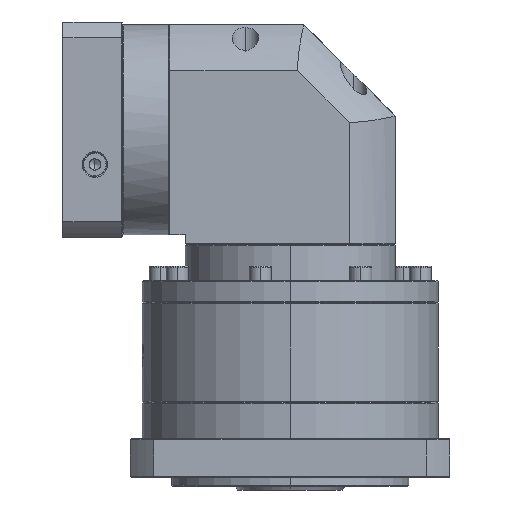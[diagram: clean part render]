
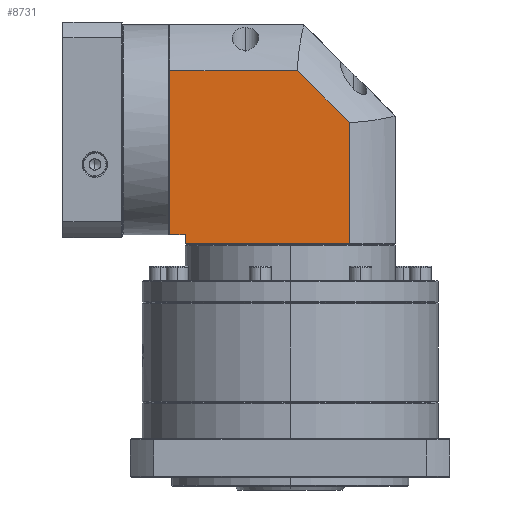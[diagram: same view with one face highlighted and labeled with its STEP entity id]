
A CAD part, left-side view. The second image highlights one B-rep face of the part: STEP entity #8731.
In plain terms, the highlighted planar face has unit normal (-1, 0, 0).
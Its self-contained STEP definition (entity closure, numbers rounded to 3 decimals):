
#3756 = CARTESIAN_POINT ( 'NONE',  ( -216.237, 89.686, 71.129 ) ) ;
#5269 = DIRECTION ( 'NONE',  ( 0., 0., -1. ) ) ;
#5440 = CARTESIAN_POINT ( 'NONE',  ( -216.237, 151.247, -23.771 ) ) ;
#5689 = VECTOR ( 'NONE', #55005, 1000. ) ;
#7602 = VECTOR ( 'NONE', #88922, 1000. ) ;
#8731 = ADVANCED_FACE ( 'NONE', ( #39428 ), #64504, .F. ) ;
#11137 = ORIENTED_EDGE ( 'NONE', *, *, #19884, .F. ) ;
#11434 = LINE ( 'NONE', #93030, #95712 ) ;
#19884 = EDGE_CURVE ( 'NONE', #26158, #134428, #98684, .T. ) ;
#23944 = DIRECTION ( 'NONE',  ( 1., 0., 0. ) ) ;
#25455 = EDGE_CURVE ( 'NONE', #134428, #101518, #112956, .T. ) ;
#26158 = VERTEX_POINT ( 'NONE', #127011 ) ;
#28869 = ORIENTED_EDGE ( 'NONE', *, *, #25455, .F. ) ;
#28967 = LINE ( 'NONE', #33814, #5689 ) ;
#29395 = ORIENTED_EDGE ( 'NONE', *, *, #121146, .T. ) ;
#33814 = CARTESIAN_POINT ( 'NONE',  ( -216.237, 151.247, 96.229 ) ) ;
#35282 = ORIENTED_EDGE ( 'NONE', *, *, #87425, .F. ) ;
#37579 = CARTESIAN_POINT ( 'NONE',  ( -216.237, 61.348, -30.271 ) ) ;
#38376 = CARTESIAN_POINT ( 'NONE',  ( -216.237, 151.247, -18.771 ) ) ;
#39428 = FACE_OUTER_BOUND ( 'NONE', #62586, .T. ) ;
#42209 = DIRECTION ( 'NONE',  ( 0., -1., 0. ) ) ;
#44174 = DIRECTION ( 'NONE',  ( 0., -1., 0. ) ) ;
#49364 = VECTOR ( 'NONE', #119323, 1000. ) ;
#53342 = VECTOR ( 'NONE', #62103, 1000. ) ;
#55005 = DIRECTION ( 'NONE',  ( 0., 0., -1. ) ) ;
#58827 = VERTEX_POINT ( 'NONE', #38376 ) ;
#61056 = ORIENTED_EDGE ( 'NONE', *, *, #109144, .F. ) ;
#61271 = LINE ( 'NONE', #37579, #66104 ) ;
#61318 = CARTESIAN_POINT ( 'NONE',  ( -216.237, 159.647, 71.129 ) ) ;
#62103 = DIRECTION ( 'NONE',  ( 0., -1., 0. ) ) ;
#62586 = EDGE_LOOP ( 'NONE', ( #61056, #35282, #28869, #11137, #74373, #29395, #99458 ) ) ;
#64504 = PLANE ( 'NONE',  #94746 ) ;
#66104 = VECTOR ( 'NONE', #5269, 1000. ) ;
#66739 = VERTEX_POINT ( 'NONE', #5440 ) ;
#70745 = EDGE_CURVE ( 'NONE', #76895, #66739, #108523, .T. ) ;
#74263 = CARTESIAN_POINT ( 'NONE',  ( -216.237, 89.686, 71.129 ) ) ;
#74373 = ORIENTED_EDGE ( 'NONE', *, *, #99433, .T. ) ;
#76037 = CARTESIAN_POINT ( 'NONE',  ( -216.237, 36.247, -30.271 ) ) ;
#76895 = VERTEX_POINT ( 'NONE', #108279 ) ;
#82065 = VECTOR ( 'NONE', #94218, 1000. ) ;
#87425 = EDGE_CURVE ( 'NONE', #101518, #110593, #133838, .T. ) ;
#88922 = DIRECTION ( 'NONE',  ( 0., 1., 0. ) ) ;
#93030 = CARTESIAN_POINT ( 'NONE',  ( -216.237, 151.247, -18.771 ) ) ;
#94218 = DIRECTION ( 'NONE',  ( 0., 0., 1. ) ) ;
#94746 = AXIS2_PLACEMENT_3D ( 'NONE', #76037, #23944, #44174 ) ;
#95712 = VECTOR ( 'NONE', #42209, 1000. ) ;
#97927 = CARTESIAN_POINT ( 'NONE',  ( -216.237, 61.348, 42.791 ) ) ;
#98684 = LINE ( 'NONE', #136845, #82065 ) ;
#99433 = EDGE_CURVE ( 'NONE', #26158, #58827, #11434, .T. ) ;
#99458 = ORIENTED_EDGE ( 'NONE', *, *, #70745, .F. ) ;
#101518 = VERTEX_POINT ( 'NONE', #74263 ) ;
#108279 = CARTESIAN_POINT ( 'NONE',  ( -216.237, 61.348, -23.771 ) ) ;
#108523 = LINE ( 'NONE', #120896, #7602 ) ;
#109144 = EDGE_CURVE ( 'NONE', #110593, #76895, #61271, .T. ) ;
#110593 = VERTEX_POINT ( 'NONE', #97927 ) ;
#112956 = LINE ( 'NONE', #137118, #53342 ) ;
#119323 = DIRECTION ( 'NONE',  ( 0., -0.707, -0.707 ) ) ;
#120896 = CARTESIAN_POINT ( 'NONE',  ( -216.237, 36.247, -23.771 ) ) ;
#121146 = EDGE_CURVE ( 'NONE', #58827, #66739, #28967, .T. ) ;
#127011 = CARTESIAN_POINT ( 'NONE',  ( -216.237, 159.647, -18.771 ) ) ;
#133838 = LINE ( 'NONE', #3756, #49364 ) ;
#134428 = VERTEX_POINT ( 'NONE', #61318 ) ;
#136845 = CARTESIAN_POINT ( 'NONE',  ( -216.237, 159.647, -30.271 ) ) ;
#137118 = CARTESIAN_POINT ( 'NONE',  ( -216.237, 36.247, 71.129 ) ) ;
